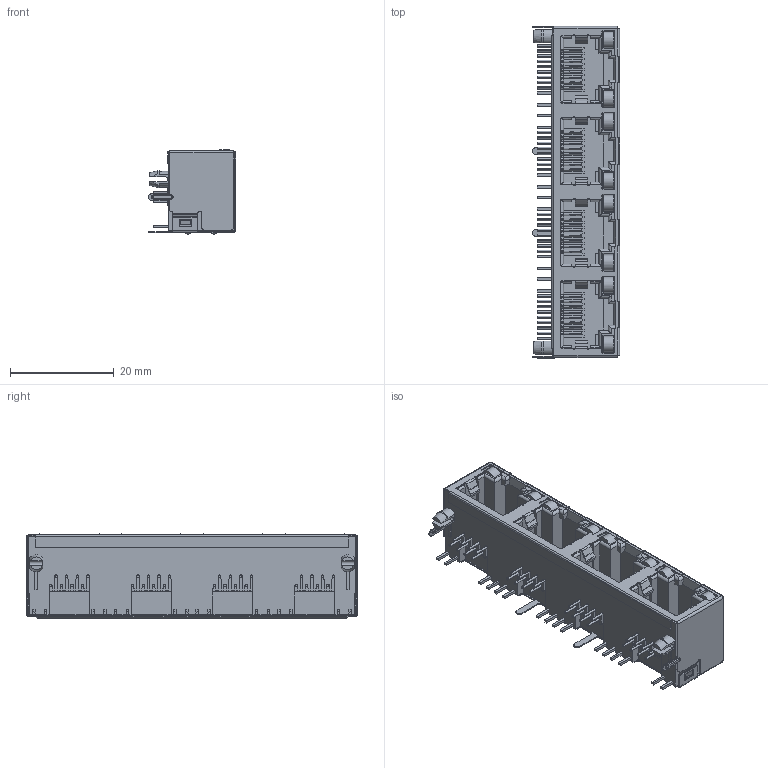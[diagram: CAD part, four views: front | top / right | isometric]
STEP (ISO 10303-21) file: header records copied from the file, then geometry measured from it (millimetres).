
FILE_DESCRIPTION((''),'2;1');
FILE_NAME('56S-LED-1X4-8P8C-E0001_ASM','2020-01-02T10:01:24',('CSCE工程部'),(''),'CREO PARAMETRIC BY PTC INC, 2018400','CREO PARAMETRIC BY PTC INC, 2018400','');
FILE_SCHEMA(('CONFIG_CONTROL_DESIGN','GEOMETRIC_VALIDATION_PROPERTIES_MIM'));
Products named in the file (4): 56LED-1X4-8P8C-D0; 56-LED0; 56-LED-1X4-000; 56S-LED-1X4-8P8C-E0001_ASM
Assembly tree (6 placements, depth 2):
  56S-LED-1X4-8P8C-E0001_ASM
    56LED-1X4-8P8C-D0
    56-LED0  x4
    56-LED-1X4-000
Bounding box: 16.8 x 63.95 x 16.22 mm (x, y, z)
Volume: 6320.2 mm3; surface area: 16544.4 mm2
Topology: 42 solids, 42 shells, 2804 faces, 7398 edges, 4632 vertices
Faces by surface type: plane 1898, cylinder 718, torus 172, bspline 12, cone 4
Entity records: 93269 total; most frequent: CARTESIAN_POINT 15512, ORIENTED_EDGE 14004, DIRECTION 13486, EDGE_CURVE 7002, VECTOR 5346, LINE 5346, VERTEX_POINT 4368, AXIS2_PLACEMENT_3D 4070
